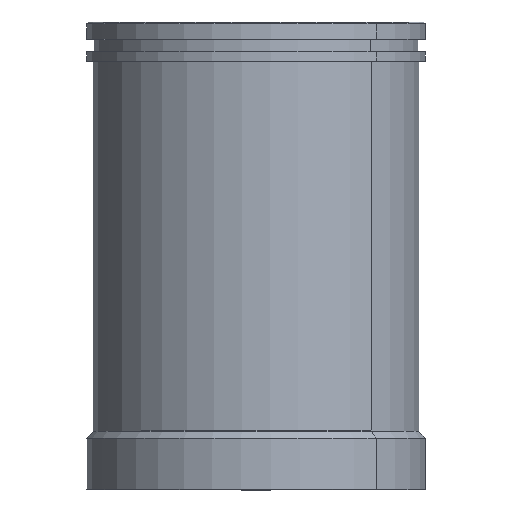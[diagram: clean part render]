
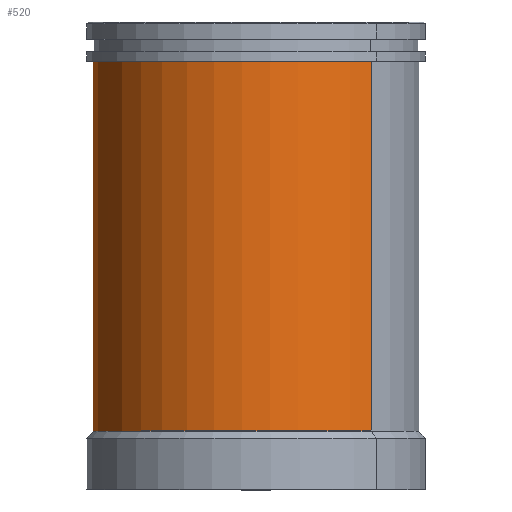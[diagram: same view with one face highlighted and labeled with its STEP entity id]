
A CAD part, top view. The second image highlights one B-rep face of the part: STEP entity #520.
In plain terms, the highlighted cylindrical face has radius 54.1 mm (diameter 108.2 mm), a partial arc.
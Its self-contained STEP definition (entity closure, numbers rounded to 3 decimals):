
#140=CYLINDRICAL_SURFACE('',#5387,54.1);
#520=ADVANCED_FACE('',(#753),#140,.T.);
#753=FACE_OUTER_BOUND('',#1060,.F.);
#1060=EDGE_LOOP('',(#1405,#1406,#1407,#1408));
#1405=ORIENTED_EDGE('',*,*,#4242,.T.);
#1406=ORIENTED_EDGE('',*,*,#4244,.T.);
#1407=ORIENTED_EDGE('',*,*,#4243,.F.);
#1408=ORIENTED_EDGE('',*,*,#4239,.T.);
#3823=LINE('',#7231,#4003);
#3824=LINE('',#7232,#4004);
#4003=VECTOR('',#5879,122.6);
#4004=VECTOR('',#5880,122.6);
#4239=EDGE_CURVE('',#5026,#5025,#4695,.T.);
#4242=EDGE_CURVE('',#5025,#5023,#3823,.T.);
#4243=EDGE_CURVE('',#5026,#5024,#3824,.T.);
#4244=EDGE_CURVE('',#5023,#5024,#4698,.T.);
#4695=CIRCLE('',#5269,54.1);
#4698=CIRCLE('',#5272,54.1);
#5023=VERTEX_POINT('',#7102);
#5024=VERTEX_POINT('',#7103);
#5025=VERTEX_POINT('',#7104);
#5026=VERTEX_POINT('',#7105);
#5269=AXIS2_PLACEMENT_3D('',#7228,#5873,#5874);
#5272=AXIS2_PLACEMENT_3D('',#7233,#5881,#5882);
#5387=AXIS2_PLACEMENT_3D('',#7420,#6183,#6184);
#5873=DIRECTION('',(0.,-1.,0.));
#5874=DIRECTION('',(0.707,0.,0.707));
#5879=DIRECTION('',(0.,1.,0.));
#5880=DIRECTION('',(0.,1.,0.));
#5881=DIRECTION('',(0.,1.,0.));
#5882=DIRECTION('',(-0.707,0.,-0.707));
#6183=DIRECTION('',(0.,-1.,0.));
#6184=DIRECTION('',(0.707,0.,0.707));
#7102=CARTESIAN_POINT('',(-88.254,6.,90.746));
#7103=CARTESIAN_POINT('',(-11.746,6.,167.254));
#7104=CARTESIAN_POINT('',(-88.254,-116.6,90.746));
#7105=CARTESIAN_POINT('',(-11.746,-116.6,167.254));
#7228=CARTESIAN_POINT('',(-50.,-116.6,129.));
#7231=CARTESIAN_POINT('',(-88.254,-116.6,90.746));
#7232=CARTESIAN_POINT('',(-11.746,-116.6,167.254));
#7233=CARTESIAN_POINT('',(-50.,6.,129.));
#7420=CARTESIAN_POINT('',(-50.,-116.6,129.));
